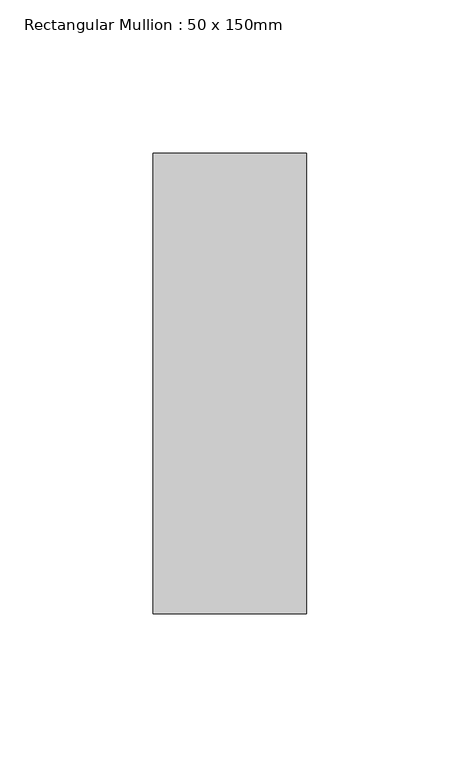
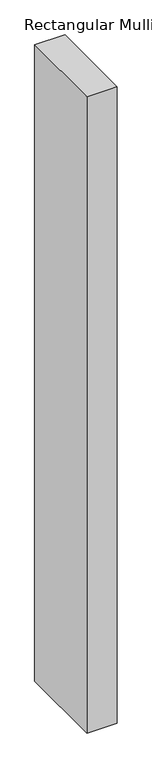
"""IFC4 building model written with IfcOpenShell, lengths in millimetres: member geometry, Rectangular Mullion : 50 x 150mm."""

from ifc_helpers import new_model, si_unit, frame, origin, place, context, project, spatial, polyline, outline, extrude, source, transform, mapped, element, save


def rectangular_mullion_50_x_150mm_b3a53f5b(model_context):
    return source(origin(), model_context, "Body", "SweptSolid", [
        extrude(outline(polyline([(25.0, 75.0), (25.0, -75.0), (-25.0, -75.0), (-25.0, 75.0), (25.0, 75.0)])), frame((0.0, 0.0, -1113.7564813), z_axis=(0.0, 0.0, 1.0), x_axis=(1.0, 0.0, 0.0)), (0.0, 0.0, 1.0), 1113.7564813),
    ])


if __name__ == "__main__":
    model = new_model("IFC4")
    model_context = context("Model", 3, world=origin())
    ifc_project = project(units=[si_unit("LENGTHUNIT", "METRE", prefix="MILLI")], contexts=[model_context])
    site = spatial("IfcSite", under=ifc_project)
    building = spatial("IfcBuilding", under=site)
    placement = place(None, origin())
    rectangular_mullion_50_x_150mm_shape = rectangular_mullion_50_x_150mm_b3a53f5b(model_context)
    element("IfcMember", 1, ObjectType="Rectangular Mullion : 50 x 150mm", at=placement, inside=building, context=model_context, shape_type="MappedRepresentation", body=[
        mapped(rectangular_mullion_50_x_150mm_shape, transform((0.0, 0.0, 0.0), x_axis=(1.0, 0.0, 0.0), y_axis=(0.0, 1.0, 0.0), z_axis=(0.0, 0.0, 1.0))),
    ])
    save(model, "model.ifc")
